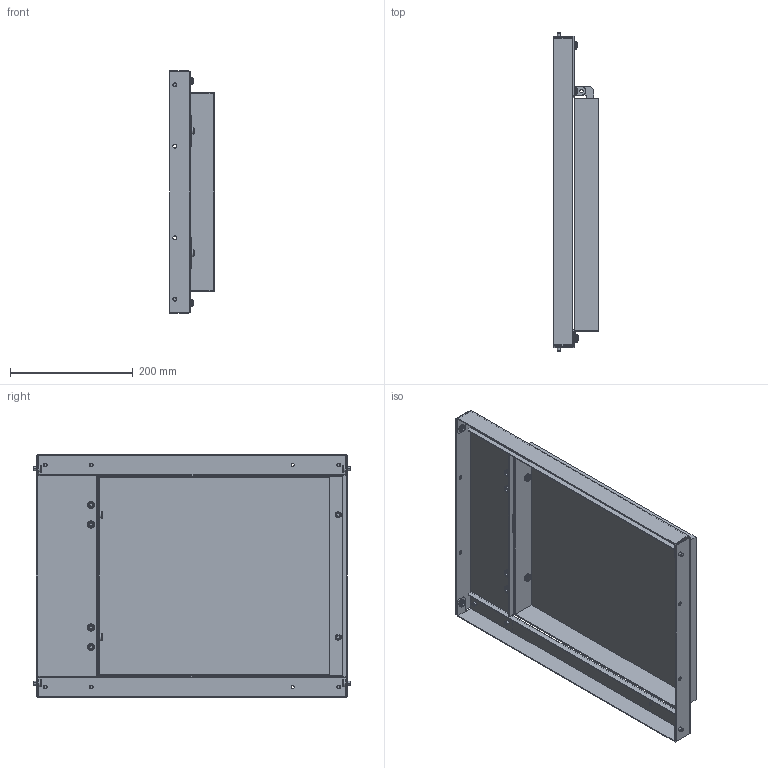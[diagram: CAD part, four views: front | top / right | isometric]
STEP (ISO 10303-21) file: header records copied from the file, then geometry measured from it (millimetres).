
FILE_DESCRIPTION (( 'STEP AP214' ), '1' );
FILE_NAME ('FO-00-MPR-040-060 Ïàíåëü ìîíòàæíàÿ ïîâîðîòíàÿ 400õ600 ìì.STEP', '2025-08-20T07:09:41', ( '' ), ( '' ), 'SwSTEP 2.0', 'SolidWorks 2023', '' );
FILE_SCHEMA (( 'AUTOMOTIVE_DESIGN' ));
Length unit declared in the file: millimetre
Products named in the file (3): Панель монтажная поворотная 400х600 мм; Панель монтажная 400х600 мм; FO-00-MPR-040-060 Панель монтажная поворотная 400х600 мм
Assembly tree (2 placements, depth 2):
  FO-00-MPR-040-060 Панель монтажная поворотная 400х600 мм
    Панель монтажная 400х600 мм
    Панель монтажная поворотная 400х600 мм
Bounding box: 73 x 518.4 x 396 mm (x, y, z)
Volume: 662712.6 mm3; surface area: 686934.2 mm2
Topology: 2 solids, 18 shells, 896 faces, 2242 edges, 1448 vertices
Faces by surface type: cylinder 458, plane 290, cone 76, torus 72
Entity records: 27634 total; most frequent: DIRECTION 5176, CARTESIAN_POINT 4939, ORIENTED_EDGE 4484, EDGE_CURVE 2242, AXIS2_PLACEMENT_3D 2049, VERTEX_POINT 1448, CIRCLE 1148, LINE 1078
